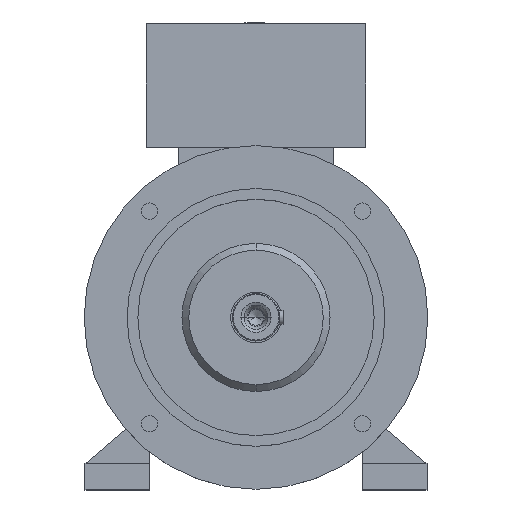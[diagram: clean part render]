
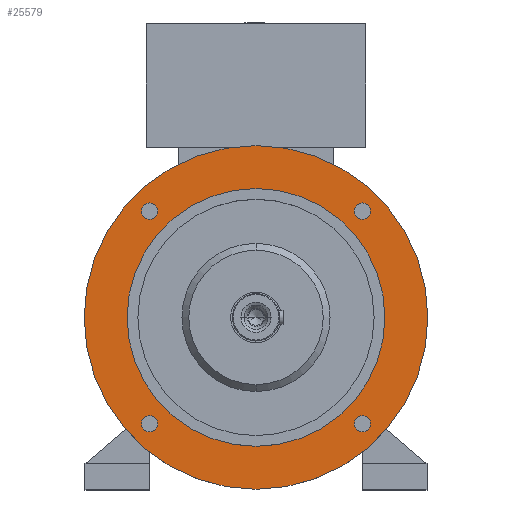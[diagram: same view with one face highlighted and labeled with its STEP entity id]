
A CAD part, top view. The second image highlights one B-rep face of the part: STEP entity #25579.
In plain terms, the highlighted planar face has unit normal (0, 0, 1).
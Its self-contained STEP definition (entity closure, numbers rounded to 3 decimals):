
#440 = AXIS2_PLACEMENT_3D ( 'NONE', #19090, #15170, #10922 ) ;
#453 = EDGE_CURVE ( 'NONE', #24805, #23412, #10140, .T. ) ;
#624 = FACE_BOUND ( 'NONE', #9143, .T. ) ;
#704 = AXIS2_PLACEMENT_3D ( 'NONE', #25198, #22989, #2728 ) ;
#1115 = EDGE_CURVE ( 'NONE', #9385, #3507, #17982, .T. ) ;
#1161 = CARTESIAN_POINT ( 'NONE',  ( 0., 0., 285.5 ) ) ;
#1585 = CARTESIAN_POINT ( 'NONE',  ( 133.244, -123.744, 285.5 ) ) ;
#2443 = EDGE_CURVE ( 'NONE', #23017, #20071, #3992, .T. ) ;
#2482 = CIRCLE ( 'NONE', #704, 9.5 ) ;
#2537 = CARTESIAN_POINT ( 'NONE',  ( 150., 0., 285.5 ) ) ;
#2728 = DIRECTION ( 'NONE',  ( 1., 0., 0. ) ) ;
#2844 = FACE_BOUND ( 'NONE', #15718, .T. ) ;
#2891 = CARTESIAN_POINT ( 'NONE',  ( 133.244, 123.744, 285.5 ) ) ;
#3145 = DIRECTION ( 'NONE',  ( 0., 0., 1. ) ) ;
#3278 = CARTESIAN_POINT ( 'NONE',  ( 114.244, 123.744, 285.5 ) ) ;
#3316 = PLANE ( 'NONE',  #10173 ) ;
#3507 = VERTEX_POINT ( 'NONE', #11883 ) ;
#3756 = DIRECTION ( 'NONE',  ( -1., 0., 0. ) ) ;
#3992 = CIRCLE ( 'NONE', #440, 9.5 ) ;
#4380 = VERTEX_POINT ( 'NONE', #23963 ) ;
#5220 = VERTEX_POINT ( 'NONE', #1585 ) ;
#5332 = EDGE_CURVE ( 'NONE', #20071, #23017, #20263, .T. ) ;
#5656 = CARTESIAN_POINT ( 'NONE',  ( 123.744, -123.744, 285.5 ) ) ;
#5777 = EDGE_CURVE ( 'NONE', #5220, #10168, #9597, .T. ) ;
#5821 = CIRCLE ( 'NONE', #11125, 150. ) ;
#6567 = EDGE_LOOP ( 'NONE', ( #20475, #12583 ) ) ;
#6658 = ORIENTED_EDGE ( 'NONE', *, *, #15282, .T. ) ;
#7452 = EDGE_LOOP ( 'NONE', ( #18897, #20223 ) ) ;
#8157 = EDGE_LOOP ( 'NONE', ( #12748, #10088 ) ) ;
#8839 = AXIS2_PLACEMENT_3D ( 'NONE', #13576, #17352, #23493 ) ;
#9012 = AXIS2_PLACEMENT_3D ( 'NONE', #25574, #9468, #11591 ) ;
#9143 = EDGE_LOOP ( 'NONE', ( #11121, #25903 ) ) ;
#9316 = CIRCLE ( 'NONE', #9864, 200. ) ;
#9385 = VERTEX_POINT ( 'NONE', #17747 ) ;
#9435 = DIRECTION ( 'NONE',  ( 0., 0., -1. ) ) ;
#9468 = DIRECTION ( 'NONE',  ( 0., 0., 1. ) ) ;
#9524 = CARTESIAN_POINT ( 'NONE',  ( -123.744, 123.744, 285.5 ) ) ;
#9597 = CIRCLE ( 'NONE', #16671, 9.5 ) ;
#9722 = DIRECTION ( 'NONE',  ( 0., 0., -1. ) ) ;
#9864 = AXIS2_PLACEMENT_3D ( 'NONE', #1161, #23010, #19304 ) ;
#10088 = ORIENTED_EDGE ( 'NONE', *, *, #1115, .T. ) ;
#10140 = CIRCLE ( 'NONE', #13618, 150. ) ;
#10168 = VERTEX_POINT ( 'NONE', #18790 ) ;
#10173 = AXIS2_PLACEMENT_3D ( 'NONE', #15324, #3145, #23573 ) ;
#10382 = CARTESIAN_POINT ( 'NONE',  ( -133.244, -123.744, 285.5 ) ) ;
#10756 = CARTESIAN_POINT ( 'NONE',  ( 123.744, 123.744, 285.5 ) ) ;
#10880 = DIRECTION ( 'NONE',  ( 1., 0., 0. ) ) ;
#10922 = DIRECTION ( 'NONE',  ( 1., 0., 0. ) ) ;
#11033 = CIRCLE ( 'NONE', #13711, 9.5 ) ;
#11121 = ORIENTED_EDGE ( 'NONE', *, *, #453, .T. ) ;
#11125 = AXIS2_PLACEMENT_3D ( 'NONE', #17863, #19869, #14090 ) ;
#11545 = CARTESIAN_POINT ( 'NONE',  ( -200., 0., 285.5 ) ) ;
#11591 = DIRECTION ( 'NONE',  ( -1., 0., 0. ) ) ;
#11690 = FACE_OUTER_BOUND ( 'NONE', #7452, .T. ) ;
#11813 = EDGE_CURVE ( 'NONE', #23412, #24805, #5821, .T. ) ;
#11883 = CARTESIAN_POINT ( 'NONE',  ( -114.244, 123.744, 285.5 ) ) ;
#12542 = VERTEX_POINT ( 'NONE', #20428 ) ;
#12583 = ORIENTED_EDGE ( 'NONE', *, *, #5332, .T. ) ;
#12748 = ORIENTED_EDGE ( 'NONE', *, *, #20055, .T. ) ;
#13576 = CARTESIAN_POINT ( 'NONE',  ( -123.744, -123.744, 285.5 ) ) ;
#13618 = AXIS2_PLACEMENT_3D ( 'NONE', #23835, #15843, #3756 ) ;
#13711 = AXIS2_PLACEMENT_3D ( 'NONE', #19219, #25135, #10880 ) ;
#14090 = DIRECTION ( 'NONE',  ( -1., 0., 0. ) ) ;
#15158 = FACE_BOUND ( 'NONE', #6567, .T. ) ;
#15170 = DIRECTION ( 'NONE',  ( 0., 0., -1. ) ) ;
#15214 = VERTEX_POINT ( 'NONE', #11545 ) ;
#15282 = EDGE_CURVE ( 'NONE', #4380, #16483, #16713, .T. ) ;
#15324 = CARTESIAN_POINT ( 'NONE',  ( 0., 200., 285.5 ) ) ;
#15718 = EDGE_LOOP ( 'NONE', ( #16049, #18397 ) ) ;
#15811 = AXIS2_PLACEMENT_3D ( 'NONE', #9524, #9435, #25450 ) ;
#15843 = DIRECTION ( 'NONE',  ( 0., 0., -1. ) ) ;
#16049 = ORIENTED_EDGE ( 'NONE', *, *, #5777, .T. ) ;
#16295 = CIRCLE ( 'NONE', #22529, 9.5 ) ;
#16403 = CARTESIAN_POINT ( 'NONE',  ( -150., 0., 285.5 ) ) ;
#16483 = VERTEX_POINT ( 'NONE', #10382 ) ;
#16671 = AXIS2_PLACEMENT_3D ( 'NONE', #5656, #19727, #25559 ) ;
#16713 = CIRCLE ( 'NONE', #8839, 9.5 ) ;
#17352 = DIRECTION ( 'NONE',  ( 0., 0., -1. ) ) ;
#17747 = CARTESIAN_POINT ( 'NONE',  ( -133.244, 123.744, 285.5 ) ) ;
#17863 = CARTESIAN_POINT ( 'NONE',  ( 0., 0., 285.5 ) ) ;
#17982 = CIRCLE ( 'NONE', #15811, 9.5 ) ;
#18141 = CIRCLE ( 'NONE', #9012, 200. ) ;
#18253 = EDGE_CURVE ( 'NONE', #15214, #12542, #18141, .T. ) ;
#18397 = ORIENTED_EDGE ( 'NONE', *, *, #24851, .T. ) ;
#18744 = DIRECTION ( 'NONE',  ( 0., 0., -1. ) ) ;
#18790 = CARTESIAN_POINT ( 'NONE',  ( 114.244, -123.744, 285.5 ) ) ;
#18897 = ORIENTED_EDGE ( 'NONE', *, *, #18253, .T. ) ;
#18911 = EDGE_CURVE ( 'NONE', #12542, #15214, #9316, .T. ) ;
#19090 = CARTESIAN_POINT ( 'NONE',  ( 123.744, 123.744, 285.5 ) ) ;
#19219 = CARTESIAN_POINT ( 'NONE',  ( -123.744, -123.744, 285.5 ) ) ;
#19304 = DIRECTION ( 'NONE',  ( -1., 0., 0. ) ) ;
#19565 = CARTESIAN_POINT ( 'NONE',  ( -123.744, 123.744, 285.5 ) ) ;
#19727 = DIRECTION ( 'NONE',  ( 0., 0., -1. ) ) ;
#19869 = DIRECTION ( 'NONE',  ( 0., 0., -1. ) ) ;
#20055 = EDGE_CURVE ( 'NONE', #3507, #9385, #16295, .T. ) ;
#20071 = VERTEX_POINT ( 'NONE', #3278 ) ;
#20223 = ORIENTED_EDGE ( 'NONE', *, *, #18911, .T. ) ;
#20263 = CIRCLE ( 'NONE', #22203, 9.5 ) ;
#20428 = CARTESIAN_POINT ( 'NONE',  ( 200., 0., 285.5 ) ) ;
#20475 = ORIENTED_EDGE ( 'NONE', *, *, #2443, .T. ) ;
#20846 = DIRECTION ( 'NONE',  ( 1., 0., 0. ) ) ;
#21437 = FACE_BOUND ( 'NONE', #8157, .T. ) ;
#22203 = AXIS2_PLACEMENT_3D ( 'NONE', #10756, #18744, #20846 ) ;
#22529 = AXIS2_PLACEMENT_3D ( 'NONE', #19565, #9722, #23795 ) ;
#22989 = DIRECTION ( 'NONE',  ( 0., 0., -1. ) ) ;
#23010 = DIRECTION ( 'NONE',  ( 0., 0., 1. ) ) ;
#23017 = VERTEX_POINT ( 'NONE', #2891 ) ;
#23412 = VERTEX_POINT ( 'NONE', #2537 ) ;
#23493 = DIRECTION ( 'NONE',  ( 1., 0., 0. ) ) ;
#23573 = DIRECTION ( 'NONE',  ( 1., 0., 0. ) ) ;
#23795 = DIRECTION ( 'NONE',  ( 1., 0., 0. ) ) ;
#23835 = CARTESIAN_POINT ( 'NONE',  ( 0., 0., 285.5 ) ) ;
#23963 = CARTESIAN_POINT ( 'NONE',  ( -114.244, -123.744, 285.5 ) ) ;
#24168 = EDGE_CURVE ( 'NONE', #16483, #4380, #11033, .T. ) ;
#24805 = VERTEX_POINT ( 'NONE', #16403 ) ;
#24851 = EDGE_CURVE ( 'NONE', #10168, #5220, #2482, .T. ) ;
#25135 = DIRECTION ( 'NONE',  ( 0., 0., -1. ) ) ;
#25198 = CARTESIAN_POINT ( 'NONE',  ( 123.744, -123.744, 285.5 ) ) ;
#25419 = EDGE_LOOP ( 'NONE', ( #6658, #25638 ) ) ;
#25450 = DIRECTION ( 'NONE',  ( 1., 0., 0. ) ) ;
#25543 = FACE_BOUND ( 'NONE', #25419, .T. ) ;
#25559 = DIRECTION ( 'NONE',  ( 1., 0., 0. ) ) ;
#25574 = CARTESIAN_POINT ( 'NONE',  ( 0., 0., 285.5 ) ) ;
#25579 = ADVANCED_FACE ( 'NONE', ( #11690, #624, #2844, #15158, #21437, #25543 ), #3316, .T. ) ;
#25638 = ORIENTED_EDGE ( 'NONE', *, *, #24168, .T. ) ;
#25903 = ORIENTED_EDGE ( 'NONE', *, *, #11813, .T. ) ;
